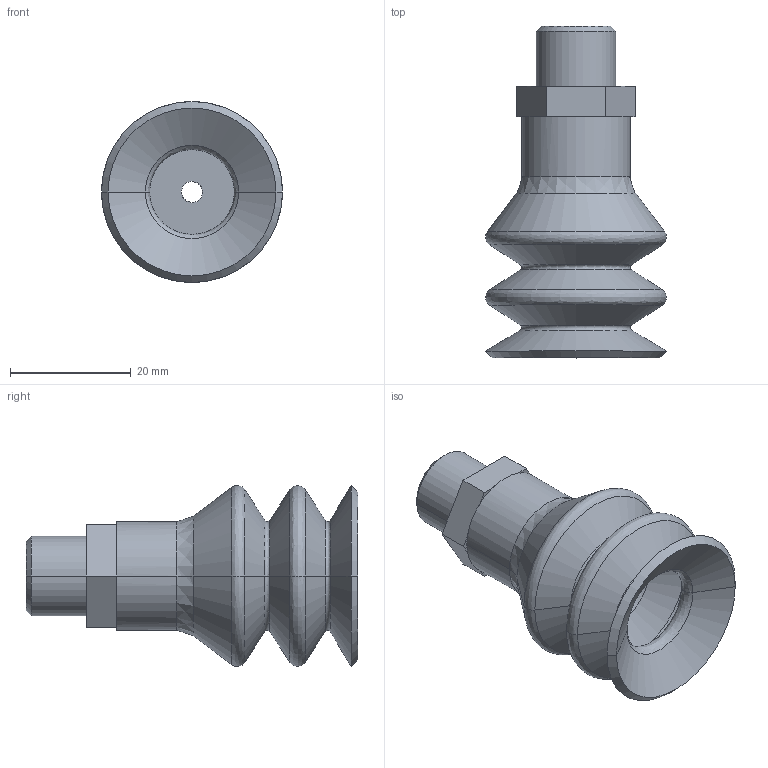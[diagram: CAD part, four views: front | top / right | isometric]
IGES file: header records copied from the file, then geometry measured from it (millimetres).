
Start section:  PTC IGES file: 1820415010\1820415010.iges
Global section: file name: 1820415010\1820415010.iges; native system: Creo Parametric by PTC Inc.; preprocessor: 2023092; author: GND7HC; organization: Unknown; date: 20250124.160527; units: millimetre
Bounding box: 30 x 55 x 30 mm (x, y, z)
Surface area: 8035.3 mm2 (no closed solid volume)
Topology: 0 solids, 0 shells, 71 faces, 304 edges, 304 vertices
Faces by surface type: revolution 50, bspline 21
